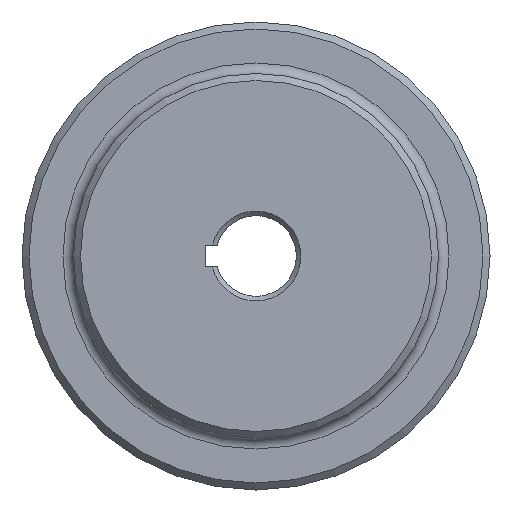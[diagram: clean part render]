
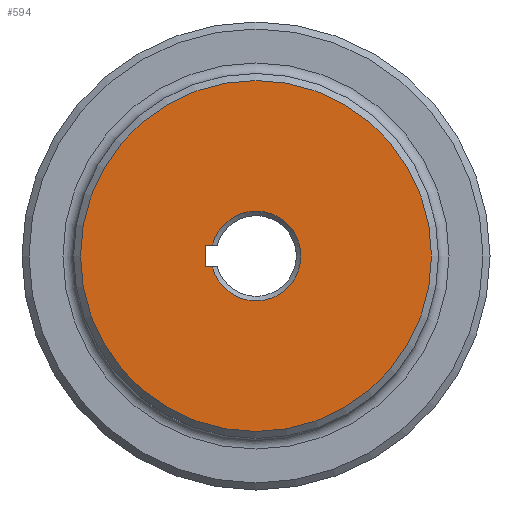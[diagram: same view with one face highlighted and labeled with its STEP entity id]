
A CAD part, left-side view. The second image highlights one B-rep face of the part: STEP entity #594.
In plain terms, the highlighted planar face has unit normal (-1, 0, 0).
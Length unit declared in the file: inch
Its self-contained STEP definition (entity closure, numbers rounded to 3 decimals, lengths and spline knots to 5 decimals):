
#168 = LINE ( 'NONE', #1509, #327 ) ;
#233 = VECTOR ( 'NONE', #2339, 39.37008 ) ;
#321 = AXIS2_PLACEMENT_3D ( 'NONE', #1668, #814, #1386 ) ;
#327 = VECTOR ( 'NONE', #1940, 39.37008 ) ;
#363 = PLANE ( 'NONE',  #1255 ) ;
#516 = DIRECTION ( 'NONE',  ( 0., 0., -1. ) ) ;
#567 = EDGE_LOOP ( 'NONE', ( #2239 ) ) ;
#594 = ADVANCED_FACE ( 'NONE', ( #1593, #678 ), #363, .F. ) ;
#647 = ORIENTED_EDGE ( 'NONE', *, *, #888, .F. ) ;
#668 = LINE ( 'NONE', #960, #233 ) ;
#678 = FACE_BOUND ( 'NONE', #2082, .T. ) ;
#814 = DIRECTION ( 'NONE',  ( -1., 0., 0. ) ) ;
#830 = CARTESIAN_POINT ( 'NONE',  ( 0., 0., 0. ) ) ;
#859 = EDGE_CURVE ( 'NONE', #1800, #2157, #668, .T. ) ;
#888 = EDGE_CURVE ( 'NONE', #1132, #1800, #168, .T. ) ;
#893 = LINE ( 'NONE', #2174, #2357 ) ;
#960 = CARTESIAN_POINT ( 'NONE',  ( 0., 0., -0.0935 ) ) ;
#961 = VERTEX_POINT ( 'NONE', #1047 ) ;
#1047 = CARTESIAN_POINT ( 'NONE',  ( 0., 0., -1.5 ) ) ;
#1055 = AXIS2_PLACEMENT_3D ( 'NONE', #830, #2198, #2035 ) ;
#1132 = VERTEX_POINT ( 'NONE', #1190 ) ;
#1190 = CARTESIAN_POINT ( 'NONE',  ( 0., 0.4301, 0.0935 ) ) ;
#1255 = AXIS2_PLACEMENT_3D ( 'NONE', #1548, #1350, #516 ) ;
#1286 = CARTESIAN_POINT ( 'NONE',  ( 0., 0.37234, -0.0935 ) ) ;
#1350 = DIRECTION ( 'NONE',  ( 1., 0., 0. ) ) ;
#1386 = DIRECTION ( 'NONE',  ( 0., 0., -1. ) ) ;
#1414 = CARTESIAN_POINT ( 'NONE',  ( 0., 0.4301, -0.0935 ) ) ;
#1426 = CARTESIAN_POINT ( 'NONE',  ( 0., 0.37234, 0.0935 ) ) ;
#1432 = EDGE_CURVE ( 'NONE', #2278, #2157, #1945, .T. ) ;
#1509 = CARTESIAN_POINT ( 'NONE',  ( 0., 0.4301, -0.0935 ) ) ;
#1548 = CARTESIAN_POINT ( 'NONE',  ( 0., 0., 0. ) ) ;
#1583 = EDGE_CURVE ( 'NONE', #961, #961, #2344, .T. ) ;
#1593 = FACE_OUTER_BOUND ( 'NONE', #567, .T. ) ;
#1668 = CARTESIAN_POINT ( 'NONE',  ( 0., 0., 0. ) ) ;
#1798 = ORIENTED_EDGE ( 'NONE', *, *, #1432, .T. ) ;
#1800 = VERTEX_POINT ( 'NONE', #1414 ) ;
#1940 = DIRECTION ( 'NONE',  ( 0., 0., -1. ) ) ;
#1945 = CIRCLE ( 'NONE', #1055, 0.3839 ) ;
#2035 = DIRECTION ( 'NONE',  ( 0., 0., -1. ) ) ;
#2050 = ORIENTED_EDGE ( 'NONE', *, *, #2254, .F. ) ;
#2082 = EDGE_LOOP ( 'NONE', ( #2050, #1798, #2210, #647 ) ) ;
#2129 = DIRECTION ( 'NONE',  ( 0., 1., 0. ) ) ;
#2157 = VERTEX_POINT ( 'NONE', #1286 ) ;
#2174 = CARTESIAN_POINT ( 'NONE',  ( 0., 0., 0.0935 ) ) ;
#2198 = DIRECTION ( 'NONE',  ( 1., 0., 0. ) ) ;
#2210 = ORIENTED_EDGE ( 'NONE', *, *, #859, .F. ) ;
#2239 = ORIENTED_EDGE ( 'NONE', *, *, #1583, .T. ) ;
#2254 = EDGE_CURVE ( 'NONE', #2278, #1132, #893, .T. ) ;
#2278 = VERTEX_POINT ( 'NONE', #1426 ) ;
#2339 = DIRECTION ( 'NONE',  ( 0., -1., 0. ) ) ;
#2344 = CIRCLE ( 'NONE', #321, 1.5 ) ;
#2357 = VECTOR ( 'NONE', #2129, 39.37008 ) ;
